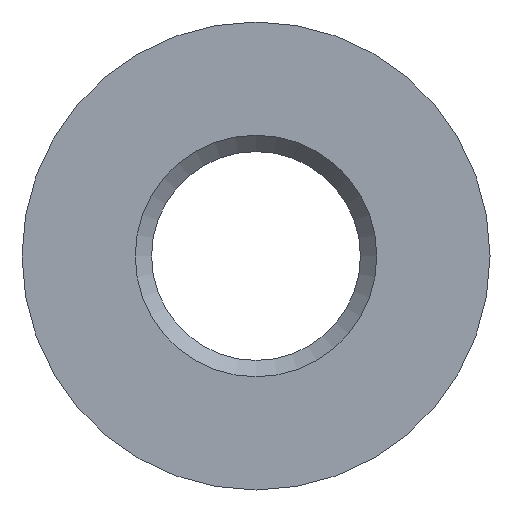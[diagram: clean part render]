
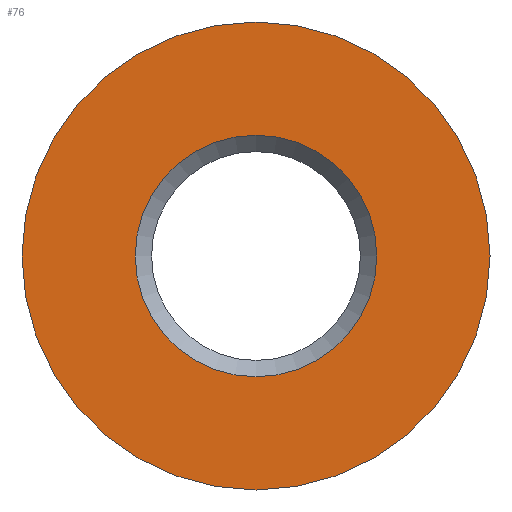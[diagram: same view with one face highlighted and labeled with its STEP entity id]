
A CAD part, front view. The second image highlights one B-rep face of the part: STEP entity #76.
In plain terms, the highlighted planar face has unit normal (0, -1, 0).
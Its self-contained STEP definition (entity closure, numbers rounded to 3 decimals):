
#76 = ADVANCED_FACE( '', ( #97, #98 ), #99, .F. );
#97 = FACE_BOUND( '', #142, .T. );
#98 = FACE_OUTER_BOUND( '', #143, .T. );
#99 = PLANE( '', #144 );
#142 = EDGE_LOOP( '', ( #193 ) );
#143 = EDGE_LOOP( '', ( #194 ) );
#144 = AXIS2_PLACEMENT_3D( '', #195, #196, #197 );
#193 = ORIENTED_EDGE( '', *, *, #319, .F. );
#194 = ORIENTED_EDGE( '', *, *, #320, .T. );
#195 = CARTESIAN_POINT( '', ( 15.5, 0., 0. ) );
#196 = DIRECTION( '', ( 0., 1., 0. ) );
#197 = DIRECTION( '', ( 0., 0., 1. ) );
#319 = EDGE_CURVE( '', #360, #360, #361, .T. );
#320 = EDGE_CURVE( '', #362, #362, #363, .T. );
#360 = VERTEX_POINT( '', #435 );
#361 = CIRCLE( '', #436, 8. );
#362 = VERTEX_POINT( '', #437 );
#363 = CIRCLE( '', #438, 15.5 );
#435 = CARTESIAN_POINT( '', ( 0., 0., -8. ) );
#436 = AXIS2_PLACEMENT_3D( '', #569, #570, #571 );
#437 = CARTESIAN_POINT( '', ( 0., 0., -15.5 ) );
#438 = AXIS2_PLACEMENT_3D( '', #572, #573, #574 );
#569 = CARTESIAN_POINT( '', ( 0., 0., 0. ) );
#570 = DIRECTION( '', ( 0., -1., 0. ) );
#571 = DIRECTION( '', ( 0., 0., -1. ) );
#572 = CARTESIAN_POINT( '', ( 0., 0., 0. ) );
#573 = DIRECTION( '', ( 0., -1., 0. ) );
#574 = DIRECTION( '', ( 0., 0., -1. ) );
